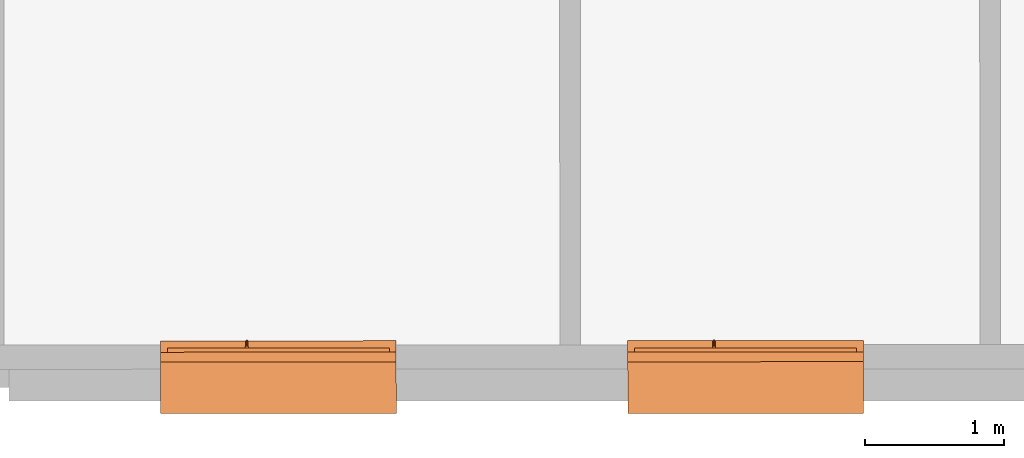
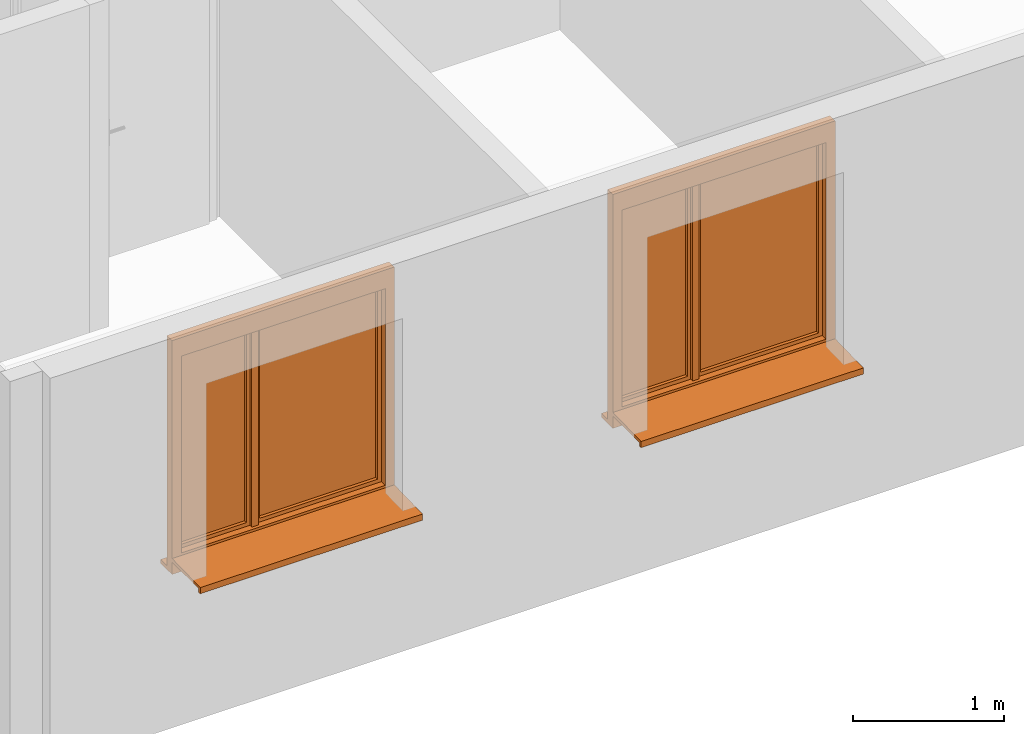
# One storey, part 3 of 9: 2 proxies.
"""IFC2X3 building model written with IfcOpenShell, lengths in metres."""

from ifc_helpers import new_model, entity, si_unit, converted_unit, derived_unit, direction, frame, origin, origin_with_axes, place, context, subcontext, project, spatial, closed_shell, open_shell, surface_model, source, transform, mapped, element, save


model = new_model("IFC2X3")

# Units and contexts
model_context = context("Model", 3, precision=1e-05, world=origin(), true_north=direction((0.772621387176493, -0.634867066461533)))
body_context = subcontext(model_context, "Body", "Model", "MODEL_VIEW")
ifc_project = project(units=[si_unit("LENGTHUNIT", "METRE"), si_unit("AREAUNIT", "SQUARE_METRE"), si_unit("VOLUMEUNIT", "CUBIC_METRE"), si_unit("MASSUNIT", "GRAM", prefix="KILO"), converted_unit("PLANEANGLEUNIT", "DEGREE", entity("IfcPlaneAngleMeasure", 0.0174532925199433), si_unit("PLANEANGLEUNIT", "RADIAN"), dimensions=[0, 0, 0, 0, 0, 0, 0]), derived_unit("THERMALTRANSMITTANCEUNIT", [(si_unit("POWERUNIT", "WATT"), 1), (si_unit("THERMODYNAMICTEMPERATUREUNIT", "KELVIN"), -1), (si_unit("LENGTHUNIT", "METRE"), -2)]), derived_unit("VOLUMETRICFLOWRATEUNIT", [(si_unit("LENGTHUNIT", "METRE"), 3), (converted_unit("TIMEUNIT", "hour", entity("IfcTimeMeasure", 3600.0), si_unit("TIMEUNIT", "SECOND"), dimensions=[0, 0, 1, 0, 0, 0, 0]), -1), (si_unit("LENGTHUNIT", "METRE"), -1)])], contexts=[model_context])

# Site, building, storey
site_placement = place(None, origin())
site = spatial("IfcSite", under=ifc_project, at=site_placement, Name="Modelle auf dem Nullpunkt", CompositionType="ELEMENT")
building_placement = place(site_placement, origin())
building = spatial("IfcBuilding", under=site, at=building_placement, Name="I", CompositionType="ELEMENT")
storey_placement = place(building_placement, origin())
storey = spatial("IfcBuildingStorey", under=building, at=storey_placement, Name="EG", CompositionType="ELEMENT", Elevation=0.0)

# Proxies
shared_shape_1 = source(origin_with_axes(), body_context, "Body", "SurfaceModel", [
    surface_model("IfcShellBasedSurfaceModel", [(1.7, 0.020000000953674, 0.1), (1.7, 0.020000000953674, 0.07), (1.7, 0.0, 0.07), (1.7, 0.0, 0.12), (1.69999999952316, 0.372500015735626, 0.13), (1.69999999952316, 0.372500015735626, 0.1), (0.0, 0.372500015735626, 0.1), (0.0, 0.372500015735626, 0.13), (0.0, 0.0, 0.12), (0.0, 0.0, 0.07), (0.0, 0.020000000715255, 0.07), (0.0, 0.020000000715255, 0.1)], [closed_shell([[[0, 1, 2, 3, 4, 5]], [[6, 7, 8, 9, 10, 11]], [[5, 6, 11, 0]], [[4, 7, 6, 5]], [[3, 8, 7, 4]], [[2, 9, 8, 3]], [[1, 10, 9, 2]], [[0, 11, 10, 1]]], orient=[[False], [False], [False], [False], [False], [False], [False], [False]])]),
    surface_model("IfcShellBasedSurfaceModel", [(1.69999999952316, 0.525000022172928, 0.0), (1.69999999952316, 0.412500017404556, 0.0), (1.69999999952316, 0.412500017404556, 0.03), (1.69999999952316, 0.525000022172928, 0.03), (0.0, 0.412500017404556, 0.0), (0.0, 0.525000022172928, 0.0), (0.0, 0.525000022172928, 0.03), (0.0, 0.412500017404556, 0.03)], [closed_shell([[[0, 1, 2, 3]], [[4, 5, 6, 7]], [[1, 0, 5, 4]], [[2, 1, 4, 7]], [[3, 2, 7, 6]], [[0, 3, 6, 5]]], orient=[[False], [False], [False], [False], [False], [False]])]),
    surface_model("IfcShellBasedSurfaceModel", [(1.7, 0.442500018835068, 1.89), (1.63, 0.442500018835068, 1.89), (1.63, 0.442500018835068, 0.0), (1.7, 0.442500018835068, 0.0), (1.69999999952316, 0.372500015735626, 0.0), (1.63000000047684, 0.372500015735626, 0.0), (1.63000000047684, 0.372500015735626, 1.89), (1.69999999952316, 0.372500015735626, 1.89)], [closed_shell([[[0, 1, 2, 3]], [[4, 5, 6, 7]], [[3, 4, 7, 0]], [[2, 5, 4, 3]], [[1, 6, 5, 2]], [[0, 7, 6, 1]]], orient=[[False], [False], [False], [False], [False], [False]])]),
    surface_model("IfcShellBasedSurfaceModel", [(0.0699999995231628, 0.442500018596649, 1.89), (0.0, 0.442500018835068, 1.89), (0.0, 0.442500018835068, 0.0), (0.0699999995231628, 0.442500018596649, 0.0), (0.07, 0.372500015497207, 0.0), (0.0, 0.372500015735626, 0.0), (0.0, 0.372500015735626, 1.89), (0.07, 0.372500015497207, 1.89)], [closed_shell([[[0, 1, 2, 3]], [[4, 5, 6, 7]], [[3, 4, 7, 0]], [[2, 5, 4, 3]], [[1, 6, 5, 2]], [[0, 7, 6, 1]]], orient=[[False], [False], [False], [False], [False], [False]])]),
    surface_model("IfcShellBasedSurfaceModel", [(1.63, 0.442500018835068, 0.15), (0.0699999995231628, 0.442500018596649, 0.15), (0.0699999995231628, 0.442500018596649, 0.0), (1.63, 0.442500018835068, 0.0), (1.63000000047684, 0.372500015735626, 0.0), (0.07, 0.372500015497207, 0.0), (0.07, 0.372500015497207, 0.15), (1.63000000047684, 0.372500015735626, 0.15)], [closed_shell([[[0, 1, 2, 3]], [[4, 5, 6, 7]], [[3, 4, 7, 0]], [[2, 5, 4, 3]], [[1, 6, 5, 2]], [[0, 7, 6, 1]]], orient=[[False], [False], [False], [False], [False], [False]])]),
    surface_model("IfcShellBasedSurfaceModel", [(1.63, 0.442500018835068, 1.89), (0.0699999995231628, 0.442500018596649, 1.89), (0.0699999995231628, 0.442500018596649, 1.74), (1.63, 0.442500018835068, 1.74), (1.63000000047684, 0.372500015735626, 1.74), (0.07, 0.372500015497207, 1.74), (0.07, 0.372500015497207, 1.89), (1.63000000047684, 0.372500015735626, 1.89)], [closed_shell([[[0, 1, 2, 3]], [[4, 5, 6, 7]], [[3, 4, 7, 0]], [[2, 5, 4, 3]], [[1, 6, 5, 2]], [[0, 7, 6, 1]]], orient=[[False], [False], [False], [False], [False], [False]])]),
    surface_model("IfcShellBasedSurfaceModel", [(1.65, 0.47250002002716, 1.76), (1.60000000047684, 0.47250002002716, 1.76), (1.60000000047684, 0.47250002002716, 0.13), (1.65, 0.47250002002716, 0.13), (1.65, 0.422500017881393, 0.13), (1.6, 0.422500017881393, 0.13), (1.6, 0.422500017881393, 1.76), (1.65, 0.422500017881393, 1.76)], [closed_shell([[[0, 1, 2, 3]], [[4, 5, 6, 7]], [[3, 4, 7, 0]], [[2, 5, 4, 3]], [[1, 6, 5, 2]], [[0, 7, 6, 1]]], orient=[[False], [False], [False], [False], [False], [False]])]),
    surface_model("IfcShellBasedSurfaceModel", [(0.698277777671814, 0.47250002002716, 1.76), (0.648277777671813, 0.47250002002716, 1.76), (0.648277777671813, 0.47250002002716, 0.13), (0.698277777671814, 0.47250002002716, 0.13), (0.698277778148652, 0.422500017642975, 0.13), (0.648277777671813, 0.422500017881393, 0.13), (0.648277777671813, 0.422500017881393, 1.76), (0.698277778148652, 0.422500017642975, 1.76)], [closed_shell([[[0, 1, 2, 3]], [[4, 5, 6, 7]], [[3, 4, 7, 0]], [[2, 5, 4, 3]], [[1, 6, 5, 2]], [[0, 7, 6, 1]]], orient=[[False], [False], [False], [False], [False], [False]])]),
    surface_model("IfcShellBasedSurfaceModel", [(1.60000000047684, 0.47250002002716, 0.18), (0.698277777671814, 0.47250002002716, 0.18), (0.698277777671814, 0.47250002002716, 0.13), (1.60000000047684, 0.47250002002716, 0.13), (1.6, 0.422500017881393, 0.13), (0.698277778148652, 0.422500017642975, 0.13), (0.698277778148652, 0.422500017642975, 0.18), (1.6, 0.422500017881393, 0.18)], [closed_shell([[[0, 1, 2, 3]], [[4, 5, 6, 7]], [[3, 4, 7, 0]], [[2, 5, 4, 3]], [[1, 6, 5, 2]], [[0, 7, 6, 1]]], orient=[[False], [False], [False], [False], [False], [False]])]),
    surface_model("IfcShellBasedSurfaceModel", [(1.60000000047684, 0.47250002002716, 1.76), (0.698277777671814, 0.47250002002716, 1.76), (0.698277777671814, 0.47250002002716, 1.71), (1.60000000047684, 0.47250002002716, 1.71), (1.6, 0.422500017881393, 1.71), (0.698277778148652, 0.422500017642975, 1.71), (0.698277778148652, 0.422500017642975, 1.76), (1.6, 0.422500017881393, 1.76)], [closed_shell([[[0, 1, 2, 3]], [[4, 5, 6, 7]], [[3, 4, 7, 0]], [[2, 5, 4, 3]], [[1, 6, 5, 2]], [[0, 7, 6, 1]]], orient=[[False], [False], [False], [False], [False], [False]])]),
    surface_model("IfcShellBasedSurfaceModel", [(0.673277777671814, 0.422500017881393, 1.74), (0.623277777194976, 0.422500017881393, 1.74), (0.623277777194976, 0.422500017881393, 0.15), (0.673277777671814, 0.422500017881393, 0.15), (0.673277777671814, 0.397500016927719, 0.15), (0.623277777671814, 0.397500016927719, 0.15), (0.623277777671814, 0.397500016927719, 1.74), (0.673277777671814, 0.397500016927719, 1.74)], [closed_shell([[[0, 1, 2, 3]], [[4, 5, 6, 7]], [[3, 4, 7, 0]], [[2, 5, 4, 3]], [[1, 6, 5, 2]], [[0, 7, 6, 1]]], orient=[[False], [False], [False], [False], [False], [False]])]),
    surface_model("IfcShellBasedSurfaceModel", [(0.647277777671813, 0.47250002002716, 1.76), (0.597277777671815, 0.472500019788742, 1.76), (0.597277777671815, 0.472500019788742, 0.13), (0.647277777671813, 0.47250002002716, 0.13), (0.647277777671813, 0.422500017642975, 0.13), (0.597277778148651, 0.422500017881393, 0.13), (0.597277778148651, 0.422500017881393, 1.76), (0.647277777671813, 0.422500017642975, 1.76)], [closed_shell([[[0, 1, 2, 3]], [[4, 5, 6, 7]], [[3, 4, 7, 0]], [[2, 5, 4, 3]], [[1, 6, 5, 2]], [[0, 7, 6, 1]]], orient=[[False], [False], [False], [False], [False], [False]])]),
    surface_model("IfcShellBasedSurfaceModel", [(0.0999999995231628, 0.472500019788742, 1.76), (0.05, 0.47250002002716, 1.76), (0.05, 0.47250002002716, 0.13), (0.0999999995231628, 0.472500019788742, 0.13), (0.1, 0.422500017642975, 0.13), (0.05, 0.422500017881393, 0.13), (0.05, 0.422500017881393, 1.76), (0.1, 0.422500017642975, 1.76)], [closed_shell([[[0, 1, 2, 3]], [[4, 5, 6, 7]], [[3, 4, 7, 0]], [[2, 5, 4, 3]], [[1, 6, 5, 2]], [[0, 7, 6, 1]]], orient=[[False], [False], [False], [False], [False], [False]])]),
    surface_model("IfcShellBasedSurfaceModel", [(0.597277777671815, 0.472500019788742, 0.18), (0.0999999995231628, 0.472500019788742, 0.18), (0.0999999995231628, 0.472500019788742, 0.13), (0.597277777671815, 0.472500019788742, 0.13), (0.597277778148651, 0.422500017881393, 0.13), (0.1, 0.422500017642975, 0.13), (0.1, 0.422500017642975, 0.18), (0.597277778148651, 0.422500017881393, 0.18)], [closed_shell([[[0, 1, 2, 3]], [[4, 5, 6, 7]], [[3, 4, 7, 0]], [[2, 5, 4, 3]], [[1, 6, 5, 2]], [[0, 7, 6, 1]]], orient=[[False], [False], [False], [False], [False], [False]])]),
    surface_model("IfcShellBasedSurfaceModel", [(0.597277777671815, 0.472500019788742, 1.76), (0.0999999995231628, 0.472500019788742, 1.76), (0.0999999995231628, 0.472500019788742, 1.71), (0.597277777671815, 0.472500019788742, 1.71), (0.597277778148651, 0.422500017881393, 1.71), (0.1, 0.422500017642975, 1.71), (0.1, 0.422500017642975, 1.76), (0.597277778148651, 0.422500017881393, 1.76)], [closed_shell([[[0, 1, 2, 3]], [[4, 5, 6, 7]], [[3, 4, 7, 0]], [[2, 5, 4, 3]], [[1, 6, 5, 2]], [[0, 7, 6, 1]]], orient=[[False], [False], [False], [False], [False], [False]])]),
    surface_model("IfcShellBasedSurfaceModel", [(0.634777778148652, 0.472500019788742, 0.75), (0.634777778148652, 0.472500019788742, 0.71), (0.609777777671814, 0.47250002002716, 0.71), (0.609777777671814, 0.47250002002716, 0.75), (0.634777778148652, 0.482500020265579, 0.71), (0.634777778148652, 0.482500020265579, 0.75), (0.609777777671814, 0.482500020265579, 0.75), (0.609777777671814, 0.482500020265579, 0.71)], [closed_shell([[[0, 1, 2, 3]], [[4, 5, 6, 7]], [[1, 0, 5, 4]], [[2, 1, 4, 7]], [[3, 2, 7, 6]], [[0, 3, 6, 5]]], orient=[[False], [False], [False], [False], [False], [False]])]),
    surface_model("IfcShellBasedSurfaceModel", [(0.612277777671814, 0.482500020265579, 0.73), (0.613617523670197, 0.482500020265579, 0.735), (0.617277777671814, 0.482500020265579, 0.738660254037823), (0.622277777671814, 0.482500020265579, 0.74), (0.627277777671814, 0.482500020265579, 0.738660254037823), (0.630938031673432, 0.482500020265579, 0.735), (0.632277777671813, 0.482500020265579, 0.73), (0.630938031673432, 0.482500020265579, 0.725), (0.627277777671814, 0.482500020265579, 0.721339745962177), (0.622277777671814, 0.482500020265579, 0.72), (0.617277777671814, 0.482500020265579, 0.721339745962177), (0.613617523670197, 0.482500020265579, 0.725), (0.612277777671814, 0.522500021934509, 0.73), (0.613617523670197, 0.527500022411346, 0.735), (0.617277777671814, 0.531160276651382, 0.738660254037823), (0.622277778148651, 0.532500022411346, 0.74), (0.627277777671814, 0.531160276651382, 0.738660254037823), (0.630938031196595, 0.527500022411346, 0.735), (0.632277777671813, 0.522500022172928, 0.73), (0.630938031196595, 0.517500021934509, 0.725), (0.627277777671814, 0.513839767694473, 0.721339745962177), (0.622277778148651, 0.51250002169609, 0.72), (0.617277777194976, 0.513839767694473, 0.721339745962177), (0.613617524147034, 0.51750002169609, 0.725), (0.612277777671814, 0.522500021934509, 0.615), (0.613617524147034, 0.51750002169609, 0.615), (0.617277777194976, 0.513839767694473, 0.615), (0.622277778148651, 0.51250002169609, 0.615), (0.627277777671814, 0.513839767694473, 0.615), (0.630938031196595, 0.517500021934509, 0.615), (0.632277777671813, 0.522500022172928, 0.615), (0.630938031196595, 0.527500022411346, 0.615), (0.627277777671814, 0.531160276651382, 0.615), (0.622277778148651, 0.532500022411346, 0.615), (0.617277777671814, 0.531160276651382, 0.615), (0.613617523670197, 0.527500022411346, 0.615)], [closed_shell([[[0, 1, 2, 3, 4, 5, 6, 7, 8, 9, 10, 11]], [[0, 12, 13, 1]], [[1, 13, 14, 2]], [[2, 14, 15, 3]], [[3, 15, 16, 4]], [[4, 16, 17, 5]], [[5, 17, 18, 6]], [[6, 18, 19, 7]], [[7, 19, 20, 8]], [[8, 20, 21, 9]], [[9, 21, 22, 10]], [[10, 22, 23, 11]], [[11, 23, 12, 0]], [[24, 25, 26, 27, 28, 29, 30, 31, 32, 33, 34, 35]], [[12, 24, 35, 13]], [[13, 35, 34, 14]], [[14, 34, 33, 15]], [[15, 33, 32, 16]], [[16, 32, 31, 17]], [[17, 31, 30, 18]], [[18, 30, 29, 19]], [[19, 29, 28, 20]], [[20, 28, 27, 21]], [[21, 27, 26, 22]], [[22, 26, 25, 23]], [[23, 25, 24, 12]]], orient=[[False], [False], [False], [False], [False], [False], [False], [False], [False], [False], [False], [False], [False], [False], [False], [False], [False], [False], [False], [False], [False], [False], [False], [False], [False], [False]])]),
    surface_model("IfcShellBasedSurfaceModel", [(1.60000000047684, 0.447500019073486, 0.18), (1.60000000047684, 0.447500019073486, 1.71), (0.698277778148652, 0.447500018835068, 1.71), (0.698277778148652, 0.447500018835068, 0.18)], [open_shell([[[0, 1, 2, 3]]], orient=[[False]])]),
    surface_model("IfcShellBasedSurfaceModel", [(0.597277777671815, 0.447500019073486, 0.18), (0.597277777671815, 0.447500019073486, 1.71), (0.1, 0.447500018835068, 1.71), (0.1, 0.447500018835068, 0.18)], [open_shell([[[0, 1, 2, 3]]], orient=[[False]])]),
])
proxy_1_placement = place(storey_placement, frame((34.0456129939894, -8.23173275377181, 436.65), z_axis=(0.0, 0.0, 1.0), x_axis=(0.999999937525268, 0.000353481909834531, 0.0)))
element("IfcBuildingElementProxy", 1, at=proxy_1_placement, inside=storey, Name="2flg Weiß Stulp", context=body_context, shape_type="MappedRepresentation", body=[
    mapped(shared_shape_1, transform((0.0, 0.0, 0.0), x_axis=(1.0, 0.0, 0.0), y_axis=(0.0, 1.0, 0.0), z_axis=(0.0, 0.0, 1.0), scale=1.0)),
])
shared_shape_2 = source(origin_with_axes(), body_context, "Body", "SurfaceModel", [
    surface_model("IfcShellBasedSurfaceModel", [(1.69999999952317, 0.020000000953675, 0.1), (1.69999999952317, 0.020000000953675, 0.07), (1.7, 0.0, 0.07), (1.7, 0.0, 0.12), (1.7, 0.372500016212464, 0.13), (1.7, 0.372500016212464, 0.1), (0.0, 0.372500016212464, 0.1), (0.0, 0.372500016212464, 0.13), (0.0, 0.0, 0.12), (0.0, 0.0, 0.07), (0.0, 0.020000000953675, 0.07), (0.0, 0.020000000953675, 0.1)], [closed_shell([[[0, 1, 2, 3, 4, 5]], [[6, 7, 8, 9, 10, 11]], [[5, 6, 11, 0]], [[4, 7, 6, 5]], [[3, 8, 7, 4]], [[2, 9, 8, 3]], [[1, 10, 9, 2]], [[0, 11, 10, 1]]], orient=[[False], [False], [False], [False], [False], [False], [False], [False]])]),
    surface_model("IfcShellBasedSurfaceModel", [(1.7, 0.525000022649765, 0.0), (1.69999999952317, 0.412500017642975, 0.0), (1.69999999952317, 0.412500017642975, 0.03), (1.7, 0.525000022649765, 0.03), (0.0, 0.412500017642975, 0.0), (0.0, 0.525000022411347, 0.0), (0.0, 0.525000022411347, 0.03), (0.0, 0.412500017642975, 0.03)], [closed_shell([[[0, 1, 2, 3]], [[4, 5, 6, 7]], [[1, 0, 5, 4]], [[2, 1, 4, 7]], [[3, 2, 7, 6]], [[0, 3, 6, 5]]], orient=[[False], [False], [False], [False], [False], [False]])]),
    surface_model("IfcShellBasedSurfaceModel", [(1.69999999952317, 0.442500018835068, 1.89), (1.62999999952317, 0.442500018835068, 1.89), (1.62999999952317, 0.442500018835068, 0.0), (1.69999999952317, 0.442500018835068, 0.0), (1.7, 0.372500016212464, 0.0), (1.63, 0.372500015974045, 0.0), (1.63, 0.372500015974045, 1.89), (1.7, 0.372500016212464, 1.89)], [closed_shell([[[0, 1, 2, 3]], [[4, 5, 6, 7]], [[3, 4, 7, 0]], [[2, 5, 4, 3]], [[1, 6, 5, 2]], [[0, 7, 6, 1]]], orient=[[False], [False], [False], [False], [False], [False]])]),
    surface_model("IfcShellBasedSurfaceModel", [(0.0699999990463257, 0.442500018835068, 1.89), (0.0, 0.442500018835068, 1.89), (0.0, 0.442500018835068, 0.0), (0.0699999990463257, 0.442500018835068, 0.0), (0.0699999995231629, 0.372500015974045, 0.0), (0.0, 0.372500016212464, 0.0), (0.0, 0.372500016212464, 1.89), (0.0699999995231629, 0.372500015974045, 1.89)], [closed_shell([[[0, 1, 2, 3]], [[4, 5, 6, 7]], [[3, 4, 7, 0]], [[2, 5, 4, 3]], [[1, 6, 5, 2]], [[0, 7, 6, 1]]], orient=[[False], [False], [False], [False], [False], [False]])]),
    surface_model("IfcShellBasedSurfaceModel", [(1.62999999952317, 0.442500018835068, 0.15), (0.0699999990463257, 0.442500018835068, 0.15), (0.0699999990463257, 0.442500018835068, 0.0), (1.62999999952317, 0.442500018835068, 0.0), (1.63, 0.372500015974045, 0.0), (0.0699999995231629, 0.372500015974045, 0.0), (0.0699999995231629, 0.372500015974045, 0.15), (1.63, 0.372500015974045, 0.15)], [closed_shell([[[0, 1, 2, 3]], [[4, 5, 6, 7]], [[3, 4, 7, 0]], [[2, 5, 4, 3]], [[1, 6, 5, 2]], [[0, 7, 6, 1]]], orient=[[False], [False], [False], [False], [False], [False]])]),
    surface_model("IfcShellBasedSurfaceModel", [(1.62999999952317, 0.442500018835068, 1.89), (0.0699999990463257, 0.442500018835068, 1.89), (0.0699999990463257, 0.442500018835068, 1.74), (1.62999999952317, 0.442500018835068, 1.74), (1.63, 0.372500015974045, 1.74), (0.0699999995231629, 0.372500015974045, 1.74), (0.0699999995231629, 0.372500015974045, 1.89), (1.63, 0.372500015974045, 1.89)], [closed_shell([[[0, 1, 2, 3]], [[4, 5, 6, 7]], [[3, 4, 7, 0]], [[2, 5, 4, 3]], [[1, 6, 5, 2]], [[0, 7, 6, 1]]], orient=[[False], [False], [False], [False], [False], [False]])]),
    surface_model("IfcShellBasedSurfaceModel", [(1.64999999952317, 0.47250002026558, 1.76), (1.59999999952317, 0.472500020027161, 1.76), (1.59999999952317, 0.472500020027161, 0.13), (1.64999999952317, 0.47250002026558, 0.13), (1.64999999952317, 0.422500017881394, 0.13), (1.59999999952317, 0.422500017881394, 0.13), (1.59999999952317, 0.422500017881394, 1.76), (1.64999999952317, 0.422500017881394, 1.76)], [closed_shell([[[0, 1, 2, 3]], [[4, 5, 6, 7]], [[3, 4, 7, 0]], [[2, 5, 4, 3]], [[1, 6, 5, 2]], [[0, 7, 6, 1]]], orient=[[False], [False], [False], [False], [False], [False]])]),
    surface_model("IfcShellBasedSurfaceModel", [(0.698277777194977, 0.472500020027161, 1.76), (0.648277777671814, 0.472500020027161, 1.76), (0.648277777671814, 0.472500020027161, 0.13), (0.698277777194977, 0.472500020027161, 0.13), (0.698277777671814, 0.422500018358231, 0.13), (0.648277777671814, 0.422500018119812, 0.13), (0.648277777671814, 0.422500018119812, 1.76), (0.698277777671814, 0.422500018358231, 1.76)], [closed_shell([[[0, 1, 2, 3]], [[4, 5, 6, 7]], [[3, 4, 7, 0]], [[2, 5, 4, 3]], [[1, 6, 5, 2]], [[0, 7, 6, 1]]], orient=[[False], [False], [False], [False], [False], [False]])]),
    surface_model("IfcShellBasedSurfaceModel", [(1.59999999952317, 0.472500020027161, 0.18), (0.698277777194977, 0.472500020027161, 0.18), (0.698277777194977, 0.472500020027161, 0.13), (1.59999999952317, 0.472500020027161, 0.13), (1.59999999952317, 0.422500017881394, 0.13), (0.698277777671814, 0.422500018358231, 0.13), (0.698277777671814, 0.422500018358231, 0.18), (1.59999999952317, 0.422500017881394, 0.18)], [closed_shell([[[0, 1, 2, 3]], [[4, 5, 6, 7]], [[3, 4, 7, 0]], [[2, 5, 4, 3]], [[1, 6, 5, 2]], [[0, 7, 6, 1]]], orient=[[False], [False], [False], [False], [False], [False]])]),
    surface_model("IfcShellBasedSurfaceModel", [(1.59999999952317, 0.472500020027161, 1.76), (0.698277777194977, 0.472500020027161, 1.76), (0.698277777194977, 0.472500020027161, 1.71), (1.59999999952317, 0.472500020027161, 1.71), (1.59999999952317, 0.422500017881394, 1.71), (0.698277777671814, 0.422500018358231, 1.71), (0.698277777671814, 0.422500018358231, 1.76), (1.59999999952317, 0.422500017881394, 1.76)], [closed_shell([[[0, 1, 2, 3]], [[4, 5, 6, 7]], [[3, 4, 7, 0]], [[2, 5, 4, 3]], [[1, 6, 5, 2]], [[0, 7, 6, 1]]], orient=[[False], [False], [False], [False], [False], [False]])]),
    surface_model("IfcShellBasedSurfaceModel", [(0.673277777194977, 0.422500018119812, 1.74), (0.623277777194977, 0.422500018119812, 1.74), (0.623277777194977, 0.422500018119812, 0.15), (0.673277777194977, 0.422500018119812, 0.15), (0.673277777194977, 0.397500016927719, 0.15), (0.623277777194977, 0.397500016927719, 0.15), (0.623277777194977, 0.397500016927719, 1.74), (0.673277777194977, 0.397500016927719, 1.74)], [closed_shell([[[0, 1, 2, 3]], [[4, 5, 6, 7]], [[3, 4, 7, 0]], [[2, 5, 4, 3]], [[1, 6, 5, 2]], [[0, 7, 6, 1]]], orient=[[False], [False], [False], [False], [False], [False]])]),
    surface_model("IfcShellBasedSurfaceModel", [(0.647277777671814, 0.472500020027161, 1.76), (0.597277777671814, 0.472500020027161, 1.76), (0.597277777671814, 0.472500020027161, 0.13), (0.647277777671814, 0.472500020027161, 0.13), (0.647277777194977, 0.422500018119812, 0.13), (0.597277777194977, 0.422500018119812, 0.13), (0.597277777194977, 0.422500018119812, 1.76), (0.647277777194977, 0.422500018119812, 1.76)], [closed_shell([[[0, 1, 2, 3]], [[4, 5, 6, 7]], [[3, 4, 7, 0]], [[2, 5, 4, 3]], [[1, 6, 5, 2]], [[0, 7, 6, 1]]], orient=[[False], [False], [False], [False], [False], [False]])]),
    surface_model("IfcShellBasedSurfaceModel", [(0.0999999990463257, 0.47250002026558, 1.76), (0.0499999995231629, 0.472500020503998, 1.76), (0.0499999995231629, 0.472500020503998, 0.13), (0.0999999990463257, 0.47250002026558, 0.13), (0.0999999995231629, 0.422500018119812, 0.13), (0.0499999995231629, 0.422500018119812, 0.13), (0.0499999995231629, 0.422500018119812, 1.76), (0.0999999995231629, 0.422500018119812, 1.76)], [closed_shell([[[0, 1, 2, 3]], [[4, 5, 6, 7]], [[3, 4, 7, 0]], [[2, 5, 4, 3]], [[1, 6, 5, 2]], [[0, 7, 6, 1]]], orient=[[False], [False], [False], [False], [False], [False]])]),
    surface_model("IfcShellBasedSurfaceModel", [(0.597277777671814, 0.472500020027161, 0.18), (0.0999999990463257, 0.47250002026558, 0.18), (0.0999999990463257, 0.47250002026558, 0.13), (0.597277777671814, 0.472500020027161, 0.13), (0.597277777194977, 0.422500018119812, 0.13), (0.0999999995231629, 0.422500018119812, 0.13), (0.0999999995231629, 0.422500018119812, 0.18), (0.597277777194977, 0.422500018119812, 0.18)], [closed_shell([[[0, 1, 2, 3]], [[4, 5, 6, 7]], [[3, 4, 7, 0]], [[2, 5, 4, 3]], [[1, 6, 5, 2]], [[0, 7, 6, 1]]], orient=[[False], [False], [False], [False], [False], [False]])]),
    surface_model("IfcShellBasedSurfaceModel", [(0.597277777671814, 0.472500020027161, 1.76), (0.0999999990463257, 0.47250002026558, 1.76), (0.0999999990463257, 0.47250002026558, 1.71), (0.597277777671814, 0.472500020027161, 1.71), (0.597277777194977, 0.422500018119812, 1.71), (0.0999999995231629, 0.422500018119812, 1.71), (0.0999999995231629, 0.422500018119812, 1.76), (0.597277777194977, 0.422500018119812, 1.76)], [closed_shell([[[0, 1, 2, 3]], [[4, 5, 6, 7]], [[3, 4, 7, 0]], [[2, 5, 4, 3]], [[1, 6, 5, 2]], [[0, 7, 6, 1]]], orient=[[False], [False], [False], [False], [False], [False]])]),
    surface_model("IfcShellBasedSurfaceModel", [(0.634777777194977, 0.47250002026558, 0.75), (0.634777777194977, 0.47250002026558, 0.71), (0.609777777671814, 0.472500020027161, 0.71), (0.609777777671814, 0.472500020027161, 0.75), (0.634777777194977, 0.482500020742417, 0.71), (0.634777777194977, 0.482500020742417, 0.75), (0.609777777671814, 0.482500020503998, 0.75), (0.609777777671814, 0.482500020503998, 0.71)], [closed_shell([[[0, 1, 2, 3]], [[4, 5, 6, 7]], [[1, 0, 5, 4]], [[2, 1, 4, 7]], [[3, 2, 7, 6]], [[0, 3, 6, 5]]], orient=[[False], [False], [False], [False], [False], [False]])]),
    surface_model("IfcShellBasedSurfaceModel", [(0.612277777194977, 0.482500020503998, 0.73), (0.613617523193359, 0.482500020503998, 0.735), (0.617277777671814, 0.482500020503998, 0.738660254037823), (0.622277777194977, 0.482500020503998, 0.74), (0.627277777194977, 0.482500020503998, 0.738660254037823), (0.630938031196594, 0.482500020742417, 0.735), (0.632277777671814, 0.482500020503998, 0.73), (0.630938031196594, 0.482500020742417, 0.725), (0.627277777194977, 0.482500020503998, 0.721339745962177), (0.622277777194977, 0.482500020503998, 0.72), (0.617277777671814, 0.482500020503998, 0.721339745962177), (0.613617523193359, 0.482500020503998, 0.725), (0.612277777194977, 0.522500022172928, 0.73), (0.613617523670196, 0.527500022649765, 0.735), (0.617277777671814, 0.531160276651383, 0.738660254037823), (0.622277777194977, 0.532500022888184, 0.74), (0.627277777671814, 0.531160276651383, 0.738660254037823), (0.630938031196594, 0.527500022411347, 0.735), (0.632277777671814, 0.522500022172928, 0.73), (0.630938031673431, 0.517500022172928, 0.725), (0.627277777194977, 0.513839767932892, 0.721339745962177), (0.622277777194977, 0.51250002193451, 0.72), (0.617277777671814, 0.513839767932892, 0.721339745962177), (0.613617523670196, 0.517500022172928, 0.725), (0.612277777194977, 0.522500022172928, 0.615), (0.613617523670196, 0.517500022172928, 0.615), (0.617277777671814, 0.513839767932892, 0.615), (0.622277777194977, 0.51250002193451, 0.615), (0.627277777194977, 0.513839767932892, 0.615), (0.630938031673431, 0.517500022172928, 0.615), (0.632277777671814, 0.522500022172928, 0.615), (0.630938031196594, 0.527500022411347, 0.615), (0.627277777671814, 0.531160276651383, 0.615), (0.622277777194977, 0.532500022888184, 0.615), (0.617277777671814, 0.531160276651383, 0.615), (0.613617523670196, 0.527500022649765, 0.615)], [closed_shell([[[0, 1, 2, 3, 4, 5, 6, 7, 8, 9, 10, 11]], [[0, 12, 13, 1]], [[1, 13, 14, 2]], [[2, 14, 15, 3]], [[3, 15, 16, 4]], [[4, 16, 17, 5]], [[5, 17, 18, 6]], [[6, 18, 19, 7]], [[7, 19, 20, 8]], [[8, 20, 21, 9]], [[9, 21, 22, 10]], [[10, 22, 23, 11]], [[11, 23, 12, 0]], [[24, 25, 26, 27, 28, 29, 30, 31, 32, 33, 34, 35]], [[12, 24, 35, 13]], [[13, 35, 34, 14]], [[14, 34, 33, 15]], [[15, 33, 32, 16]], [[16, 32, 31, 17]], [[17, 31, 30, 18]], [[18, 30, 29, 19]], [[19, 29, 28, 20]], [[20, 28, 27, 21]], [[21, 27, 26, 22]], [[22, 26, 25, 23]], [[23, 25, 24, 12]]], orient=[[False], [False], [False], [False], [False], [False], [False], [False], [False], [False], [False], [False], [False], [False], [False], [False], [False], [False], [False], [False], [False], [False], [False], [False], [False], [False]])]),
    surface_model("IfcShellBasedSurfaceModel", [(1.6, 0.447500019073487, 0.18), (1.6, 0.447500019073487, 1.71), (0.698277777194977, 0.447500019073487, 1.71), (0.698277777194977, 0.447500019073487, 0.18)], [open_shell([[[0, 1, 2, 3]]], orient=[[False]])]),
    surface_model("IfcShellBasedSurfaceModel", [(0.597277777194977, 0.447500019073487, 0.18), (0.597277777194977, 0.447500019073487, 1.71), (0.0999999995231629, 0.447500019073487, 1.71), (0.0999999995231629, 0.447500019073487, 0.18)], [open_shell([[[0, 1, 2, 3]]], orient=[[False]])]),
])
proxy_2_placement = place(storey_placement, frame((30.6756132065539, -8.23292398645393, 436.65), z_axis=(0.0, 0.0, 1.0), x_axis=(0.999999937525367, 0.00035348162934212, 0.0)))
element("IfcBuildingElementProxy", 2, at=proxy_2_placement, inside=storey, Name="2flg Weiß Stulp", context=body_context, shape_type="MappedRepresentation", body=[
    mapped(shared_shape_2, transform((0.0, 0.0, 0.0), x_axis=(1.0, 0.0, 0.0), y_axis=(0.0, 1.0, 0.0), z_axis=(0.0, 0.0, 1.0), scale=1.0)),
])

save(model, "model.ifc")
